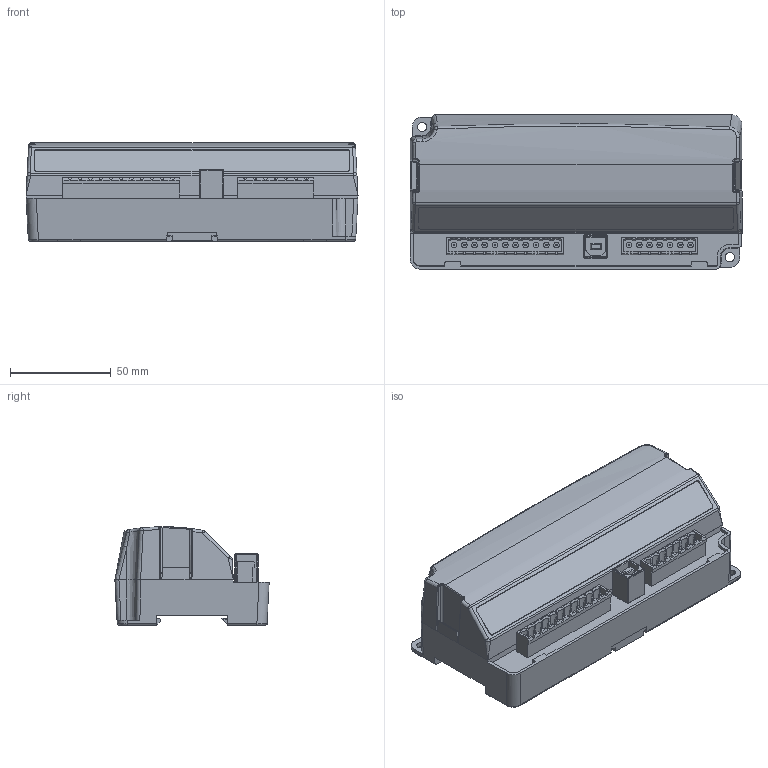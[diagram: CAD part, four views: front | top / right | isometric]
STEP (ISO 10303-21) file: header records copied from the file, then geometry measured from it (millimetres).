
FILE_DESCRIPTION (( 'STEP AP214' ), '1' );
FILE_NAME ('DSE G-0123 (7way).STEP', '2021-06-21T11:06:42', ( '' ), ( '' ), 'SwSTEP 2.0', 'SolidWorks 2020', '' );
FILE_SCHEMA (( 'AUTOMOTIVE_DESIGN' ));
Length unit declared in the file: millimetre
Products named in the file (1): DSE G-0123 (7way)
Bounding box: 164.49 x 76.42 x 48.9 mm (x, y, z)
Volume: 452920.8 mm3; surface area: 52096.5 mm2
Topology: 1 solids, 1 shells, 919 faces, 2310 edges, 1426 vertices
Faces by surface type: plane 655, cylinder 171, bspline 60, cone 33
Entity records: 28987 total; most frequent: CARTESIAN_POINT 7628, ORIENTED_EDGE 4610, DIRECTION 4062, EDGE_CURVE 2305, VECTOR 1776, LINE 1776, VERTEX_POINT 1426, AXIS2_PLACEMENT_3D 1143
